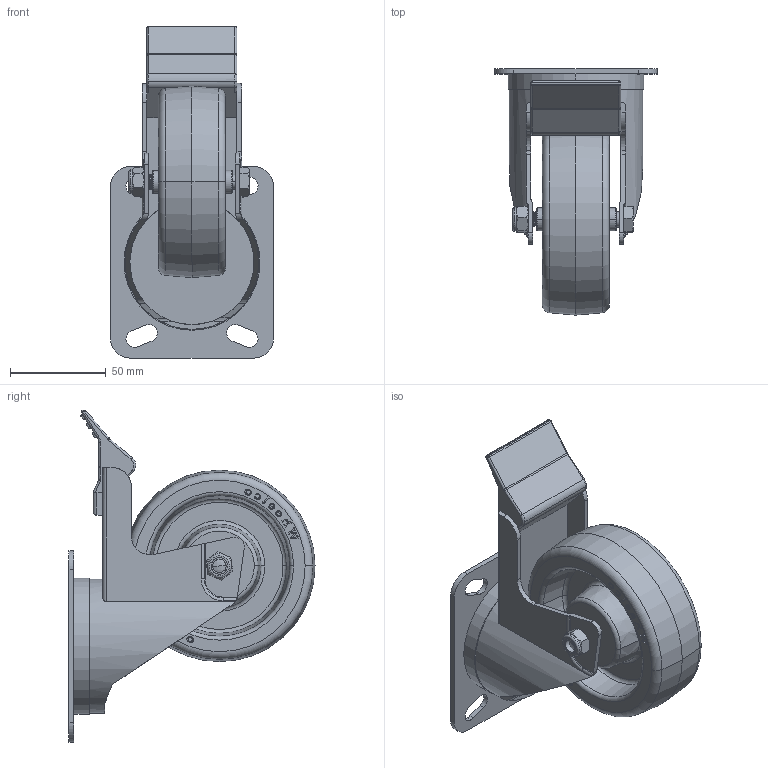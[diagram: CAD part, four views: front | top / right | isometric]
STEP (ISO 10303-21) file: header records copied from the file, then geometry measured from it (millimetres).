
FILE_DESCRIPTION (( 'STEP AP214' ), '1' );
FILE_NAME ('MSU100-SP-TB.step', '2024-01-21T22:23:24', ( '' ), ( '' ), 'SwSTEP 2.0', 'SolidWorks 2022', '' );
FILE_SCHEMA (( 'AUTOMOTIVE_DESIGN' ));
Length unit declared in the file: millimetre
Products named in the file (7): 100X85 ANGLED; MSU100-SP-TB; SP12-8-41-SS; MSU100_Re-size; M8x55-SS; M8Nyloc-SS
Assembly tree (6 placements, depth 2):
  MSU100-SP-TB
    100X85 ANGLED
    SP12-8-41-SS
    M8x55-SS
    M8Nyloc-SS
    MSU100_Re-size
    MSU100-SP-TB
Bounding box: 85 x 128.6 x 173.44 mm (x, y, z)
Volume: 290187.4 mm3; surface area: 100801.7 mm2
Topology: 6 solids, 6 shells, 1170 faces, 3144 edges, 2062 vertices
Faces by surface type: plane 600, bspline 325, cylinder 165, torus 41, cone 32, sphere 7
Entity records: 59331 total; most frequent: CARTESIAN_POINT 30522, ORIENTED_EDGE 6280, DIRECTION 4286, EDGE_CURVE 3140, VERTEX_POINT 2062, VECTOR 2010, LINE 2010, EDGE_LOOP 1270
